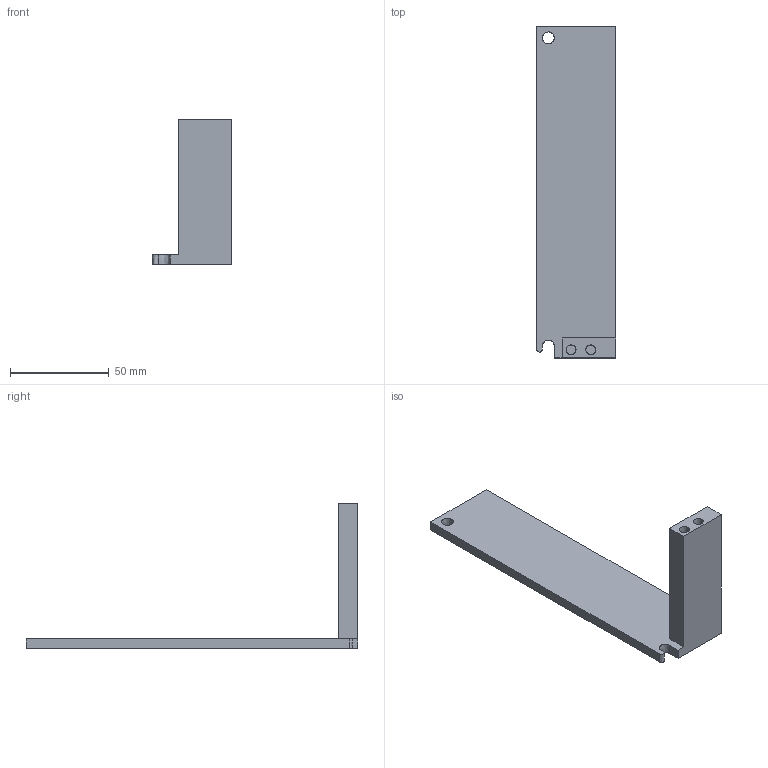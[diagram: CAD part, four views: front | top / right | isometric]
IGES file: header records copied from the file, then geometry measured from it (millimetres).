
Start section:  PTC IGES file: j4-40-60-chassis.igs
Global section: file name: j4-40-60-chassis.igs; native system: Pro/ENGINEER by Parametric Technology Corporation; preprocessor: 2010160; author: CV86875; organization: Unknown; date: 20121031.193705; units: millimetre
Bounding box: 40 x 168 x 73.5 mm (x, y, z)
Volume: 51064.1 mm3; surface area: 21018.4 mm2
Topology: 1 solids, 1 shells, 21 faces, 51 edges, 34 vertices
Faces by surface type: bspline 21
